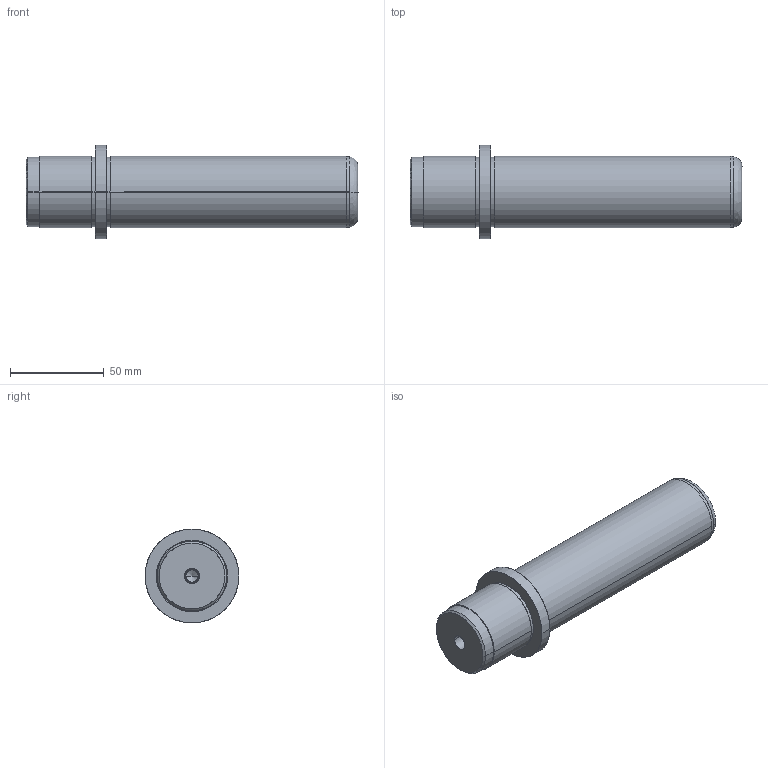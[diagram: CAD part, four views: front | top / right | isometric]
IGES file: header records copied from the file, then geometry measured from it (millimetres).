
Start section: SolidWorks IGES FILE using analytic representation for surfaces
Global section: file name: D:\zzzzz\Delta\D06\38\D06 - 38x140x37.IGS; native system: SolidWorks 2004 by SolidWorks Corporation; preprocessor: Version 5.3; author: Hkn; date: 080327.150953; units: millimetre
Bounding box: 177 x 50 x 50 mm (x, y, z)
Surface area: 26314.5 mm2 (no closed solid volume)
Topology: 0 solids, 0 shells, 39 faces, 1080 edges, 1076 vertices
Faces by surface type: revolution 28, bspline 11
